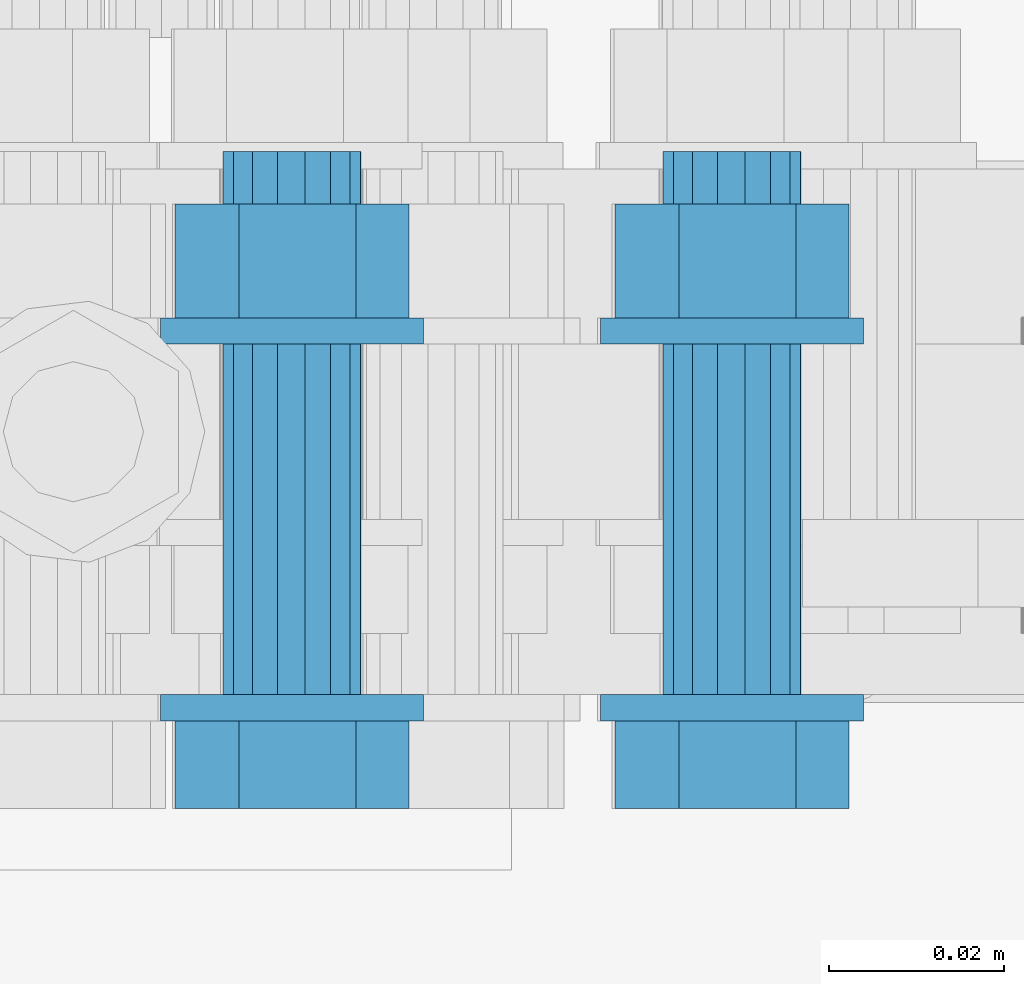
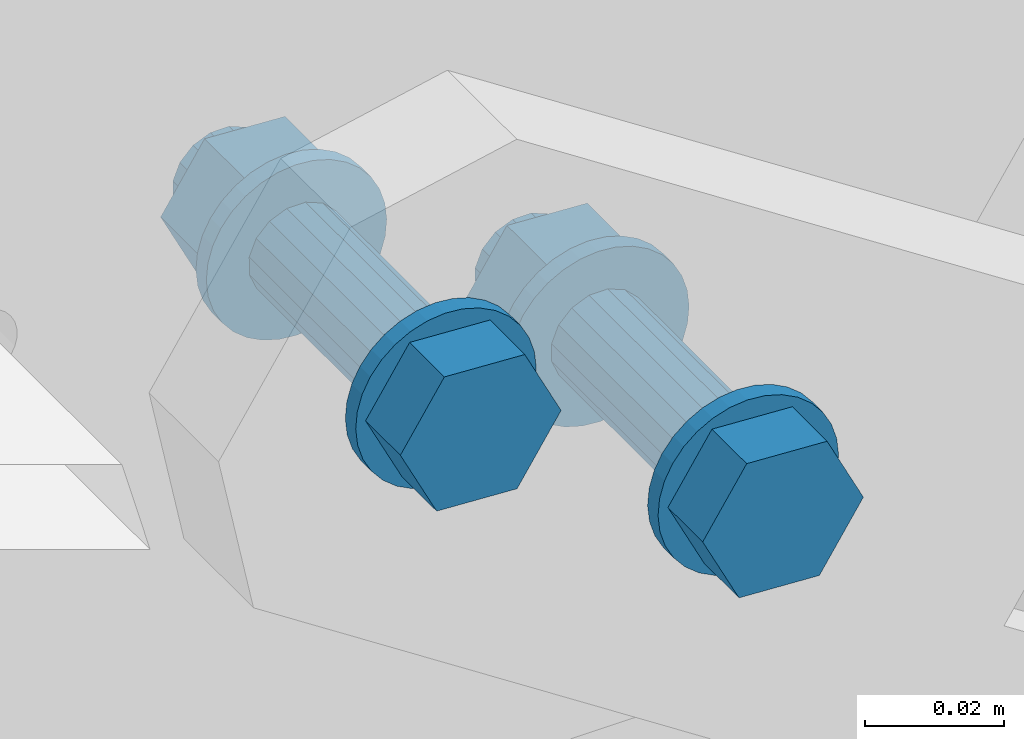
# One storey, part 364 of 825: 1 mechanical fastener.
"""IFC2X3 building model written with IfcOpenShell, lengths in millimetres."""

from ifc_helpers import new_model, entity, si_unit, converted_unit, origin_with_axes, place, context, project, spatial, faceted_brep, element, save


model = new_model("IFC2X3")

# Units and contexts
model_context = context("Model", 3, precision=1e-09, world=origin_with_axes())
ifc_project = project(units=[si_unit("LENGTHUNIT", "METRE", prefix="MILLI"), si_unit("AREAUNIT", "SQUARE_METRE"), si_unit("VOLUMEUNIT", "CUBIC_METRE"), converted_unit("PLANEANGLEUNIT", "DEGREE", entity("IfcPlaneAngleMeasure", 0.01745329), si_unit("PLANEANGLEUNIT", "RADIAN"), dimensions=[0, 0, 0, 0, 0, 0, 0])], contexts=[model_context])

# Site, building, storey
site_placement = place(None, origin_with_axes())
site = spatial("IfcSite", under=ifc_project, at=site_placement, Name="Cnopf'sche Kinderklinik", CompositionType="ELEMENT")
building_placement = place(site_placement, origin_with_axes())
building = spatial("IfcBuilding", under=site, at=building_placement, Name="Struktur 1", CompositionType="ELEMENT")
storey_placement = place(building_placement, origin_with_axes())
storey = spatial("IfcBuildingStorey", under=building, at=storey_placement, Name="Default Storey", CompositionType="ELEMENT", Elevation=0.0)

# Mechanical fastener
mechanical_fastener_placement = place(None, origin_with_axes())
element("IfcMechanicalFastener", 1, at=mechanical_fastener_placement, inside=storey, ObjectType="-", NominalDiameter=16.0, NominalLength=65.0, context=model_context, shape_type="Brep", body=[
    faceted_brep([(5059.336194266, 7486.736971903, 17366.613035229), (5059.336194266, 7483.736971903, 17366.613035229), (5061.178102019, 7483.736971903, 17368.905195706), (5061.178102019, 7486.736971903, 17368.905195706), (5063.431796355, 7483.736971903, 17370.793974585), (5063.431796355, 7486.736971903, 17370.793974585), (5066.010669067, 7483.736971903, 17372.206787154), (5066.010669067, 7486.736971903, 17372.206787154), (5068.815615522, 7483.736971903, 17373.089339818), (5068.815615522, 7486.736971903, 17373.089339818), (5071.7388432, 7483.736971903, 17373.407716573), (5071.7388432, 7486.736971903, 17373.407716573), (5074.668014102, 7483.736971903, 17373.149682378), (5074.668014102, 7486.736971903, 17373.149682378), (5077.490561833, 7483.736971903, 17372.325153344), (5077.490561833, 7486.736971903, 17372.325153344), (5080.098017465, 7483.736971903, 17370.965815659), (5080.098017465, 7486.736971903, 17370.965815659), (5082.390177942, 7483.736971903, 17369.123907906), (5082.390177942, 7486.736971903, 17369.123907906), (5084.278956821, 7483.736971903, 17366.87021357), (5084.278956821, 7486.736971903, 17366.87021357), (5085.69176939, 7483.736971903, 17364.291340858), (5085.69176939, 7486.736971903, 17364.291340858), (5086.574322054, 7483.736971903, 17361.486394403), (5086.574322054, 7486.736971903, 17361.486394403), (5086.892698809, 7483.736971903, 17358.563166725), (5086.892698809, 7486.736971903, 17358.563166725), (5086.634664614, 7483.736971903, 17355.633995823), (5086.634664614, 7486.736971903, 17355.633995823), (5085.81013558, 7483.736971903, 17352.811448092), (5085.81013558, 7486.736971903, 17352.811448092), (5084.450797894, 7483.736971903, 17350.20399246), (5084.450797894, 7486.736971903, 17350.20399246), (5082.608890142, 7483.736971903, 17347.911831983), (5082.608890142, 7486.736971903, 17347.911831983), (5080.355195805, 7483.736971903, 17346.023053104), (5080.355195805, 7486.736971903, 17346.023053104), (5077.776323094, 7483.736971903, 17344.610240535), (5077.776323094, 7486.736971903, 17344.610240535), (5074.971376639, 7483.736971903, 17343.727687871), (5074.971376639, 7486.736971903, 17343.727687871), (5072.04814896, 7483.736971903, 17343.409311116), (5072.04814896, 7486.736971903, 17343.409311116), (5069.118978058, 7483.736971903, 17343.667345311), (5069.118978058, 7486.736971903, 17343.667345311), (5066.296430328, 7483.736971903, 17344.491874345), (5066.296430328, 7486.736971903, 17344.491874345), (5063.688974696, 7483.736971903, 17345.851212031), (5063.688974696, 7486.736971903, 17345.851212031), (5061.396814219, 7483.736971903, 17347.693119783), (5061.396814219, 7486.736971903, 17347.693119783), (5059.50803534, 7483.736971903, 17349.946814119), (5059.50803534, 7486.736971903, 17349.946814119), (5058.095222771, 7483.736971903, 17352.525686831), (5058.095222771, 7486.736971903, 17352.525686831), (5057.212670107, 7483.736971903, 17355.330633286), (5057.212670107, 7486.736971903, 17355.330633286), (5056.894293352, 7483.736971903, 17358.253860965), (5056.894293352, 7486.736971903, 17358.253860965), (5057.152327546, 7483.736971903, 17361.183031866), (5057.152327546, 7486.736971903, 17361.183031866), (5057.976856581, 7483.736971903, 17364.005579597), (5057.976856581, 7486.736971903, 17364.005579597)], [[[0, 1, 2, 3]], [[3, 2, 4, 5]], [[5, 4, 6, 7]], [[7, 6, 8, 9]], [[9, 8, 10, 11]], [[11, 10, 12, 13]], [[13, 12, 14, 15]], [[15, 14, 16, 17]], [[17, 16, 18, 19]], [[19, 18, 20, 21]], [[21, 20, 22, 23]], [[23, 22, 24, 25]], [[25, 24, 26, 27]], [[27, 26, 28, 29]], [[29, 28, 30, 31]], [[31, 30, 32, 33]], [[33, 32, 34, 35]], [[35, 34, 36, 37]], [[37, 36, 38, 39]], [[39, 38, 40, 41]], [[41, 40, 42, 43]], [[43, 42, 44, 45]], [[45, 44, 46, 47]], [[47, 46, 48, 49]], [[49, 48, 50, 51]], [[51, 50, 52, 53]], [[53, 52, 54, 55]], [[55, 54, 56, 57]], [[57, 56, 58, 59]], [[59, 58, 60, 61]], [[61, 60, 62, 63]], [[63, 62, 1, 0]], [[2, 1, 62, 60, 58, 56, 54, 52, 50, 48, 46, 44, 42, 40, 38, 36, 34, 32, 30, 28, 26, 24, 22, 20, 18, 16, 14, 12, 10, 8, 6, 4]], [[63, 0, 3, 5, 7, 9, 11, 13, 15, 17, 19, 21, 23, 25, 27, 29, 31, 33, 35, 37, 39, 41, 43, 45, 47, 49, 51, 53, 55, 57, 59, 61]]]),
    faceted_brep([(5009.10698701, 7486.736971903, 17399.431120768), (5009.10698701, 7483.736971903, 17399.431120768), (5010.948894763, 7483.736971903, 17401.723281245), (5010.948894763, 7486.736971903, 17401.723281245), (5013.202589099, 7483.736971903, 17403.612060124), (5013.202589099, 7486.736971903, 17403.612060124), (5015.781461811, 7483.736971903, 17405.024872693), (5015.781461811, 7486.736971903, 17405.024872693), (5018.586408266, 7483.736971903, 17405.907425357), (5018.586408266, 7486.736971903, 17405.907425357), (5021.509635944, 7483.736971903, 17406.225802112), (5021.509635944, 7486.736971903, 17406.225802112), (5024.438806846, 7483.736971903, 17405.967767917), (5024.438806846, 7486.736971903, 17405.967767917), (5027.261354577, 7483.736971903, 17405.143238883), (5027.261354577, 7486.736971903, 17405.143238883), (5029.868810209, 7483.736971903, 17403.783901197), (5029.868810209, 7486.736971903, 17403.783901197), (5032.160970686, 7483.736971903, 17401.941993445), (5032.160970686, 7486.736971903, 17401.941993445), (5034.049749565, 7483.736971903, 17399.688299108), (5034.049749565, 7486.736971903, 17399.688299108), (5035.462562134, 7483.736971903, 17397.109426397), (5035.462562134, 7486.736971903, 17397.109426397), (5036.345114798, 7483.736971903, 17394.304479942), (5036.345114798, 7486.736971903, 17394.304479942), (5036.663491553, 7483.736971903, 17391.381252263), (5036.663491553, 7486.736971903, 17391.381252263), (5036.405457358, 7483.736971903, 17388.452081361), (5036.405457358, 7486.736971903, 17388.452081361), (5035.580928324, 7483.736971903, 17385.629533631), (5035.580928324, 7486.736971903, 17385.629533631), (5034.221590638, 7483.736971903, 17383.022077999), (5034.221590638, 7486.736971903, 17383.022077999), (5032.379682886, 7483.736971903, 17380.729917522), (5032.379682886, 7486.736971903, 17380.729917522), (5030.125988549, 7483.736971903, 17378.841138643), (5030.125988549, 7486.736971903, 17378.841138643), (5027.547115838, 7483.736971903, 17377.428326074), (5027.547115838, 7486.736971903, 17377.428326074), (5024.742169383, 7483.736971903, 17376.54577341), (5024.742169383, 7486.736971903, 17376.54577341), (5021.818941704, 7483.736971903, 17376.227396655), (5021.818941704, 7486.736971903, 17376.227396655), (5018.889770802, 7483.736971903, 17376.485430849), (5018.889770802, 7486.736971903, 17376.485430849), (5016.067223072, 7483.736971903, 17377.309959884), (5016.067223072, 7486.736971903, 17377.309959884), (5013.45976744, 7483.736971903, 17378.669297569), (5013.45976744, 7486.736971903, 17378.669297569), (5011.167606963, 7483.736971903, 17380.511205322), (5011.167606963, 7486.736971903, 17380.511205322), (5009.278828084, 7483.736971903, 17382.764899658), (5009.278828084, 7486.736971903, 17382.764899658), (5007.866015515, 7483.736971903, 17385.34377237), (5007.866015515, 7486.736971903, 17385.34377237), (5006.983462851, 7483.736971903, 17388.148718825), (5006.983462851, 7486.736971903, 17388.148718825), (5006.665086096, 7483.736971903, 17391.071946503), (5006.665086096, 7486.736971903, 17391.071946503), (5006.92312029, 7483.736971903, 17394.001117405), (5006.92312029, 7486.736971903, 17394.001117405), (5007.747649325, 7483.736971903, 17396.823665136), (5007.747649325, 7486.736971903, 17396.823665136)], [[[0, 1, 2, 3]], [[3, 2, 4, 5]], [[5, 4, 6, 7]], [[7, 6, 8, 9]], [[9, 8, 10, 11]], [[11, 10, 12, 13]], [[13, 12, 14, 15]], [[15, 14, 16, 17]], [[17, 16, 18, 19]], [[19, 18, 20, 21]], [[21, 20, 22, 23]], [[23, 22, 24, 25]], [[25, 24, 26, 27]], [[27, 26, 28, 29]], [[29, 28, 30, 31]], [[31, 30, 32, 33]], [[33, 32, 34, 35]], [[35, 34, 36, 37]], [[37, 36, 38, 39]], [[39, 38, 40, 41]], [[41, 40, 42, 43]], [[43, 42, 44, 45]], [[45, 44, 46, 47]], [[47, 46, 48, 49]], [[49, 48, 50, 51]], [[51, 50, 52, 53]], [[53, 52, 54, 55]], [[55, 54, 56, 57]], [[57, 56, 58, 59]], [[59, 58, 60, 61]], [[61, 60, 62, 63]], [[63, 62, 1, 0]], [[2, 1, 62, 60, 58, 56, 54, 52, 50, 48, 46, 44, 42, 40, 38, 36, 34, 32, 30, 28, 26, 24, 22, 20, 18, 16, 14, 12, 10, 8, 6, 4]], [[63, 0, 3, 5, 7, 9, 11, 13, 15, 17, 19, 21, 23, 25, 27, 29, 31, 33, 35, 37, 39, 41, 43, 45, 47, 49, 51, 53, 55, 57, 59, 61]]]),
    faceted_brep([(5085.248168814, 7473.736971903, 17357.671397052), (5085.248168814, 7483.736971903, 17357.671397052), (5079.209194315, 7483.736971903, 17369.605441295), (5079.209194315, 7473.736971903, 17369.605441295), (5065.854521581, 7483.736971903, 17370.342558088), (5065.854521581, 7473.736971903, 17370.342558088), (5058.538823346, 7483.736971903, 17359.145630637), (5058.538823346, 7473.736971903, 17359.145630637), (5064.577797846, 7483.736971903, 17347.211586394), (5064.577797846, 7473.736971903, 17347.211586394), (5077.93247058, 7483.736971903, 17346.474469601), (5077.93247058, 7473.736971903, 17346.474469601)], [[[0, 1, 2, 3]], [[3, 2, 4, 5]], [[5, 4, 6, 7]], [[7, 6, 8, 9]], [[9, 8, 10, 11]], [[11, 10, 1, 0]], [[3, 5, 7, 9, 11, 0]], [[2, 1, 10, 8, 6, 4]]]),
    faceted_brep([(5035.018961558, 7473.736971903, 17390.489482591), (5035.018961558, 7483.736971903, 17390.489482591), (5028.979987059, 7483.736971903, 17402.423526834), (5028.979987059, 7473.736971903, 17402.423526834), (5015.625314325, 7483.736971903, 17403.160643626), (5015.625314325, 7473.736971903, 17403.160643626), (5008.30961609, 7483.736971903, 17391.963716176), (5008.30961609, 7473.736971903, 17391.963716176), (5014.34859059, 7483.736971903, 17380.029671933), (5014.34859059, 7473.736971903, 17380.029671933), (5027.703263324, 7483.736971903, 17379.29255514), (5027.703263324, 7473.736971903, 17379.29255514)], [[[0, 1, 2, 3]], [[3, 2, 4, 5]], [[5, 4, 6, 7]], [[7, 6, 8, 9]], [[9, 8, 10, 11]], [[11, 10, 1, 0]], [[3, 5, 7, 9, 11, 0]], [[2, 1, 10, 8, 6, 4]]]),
    faceted_brep([(5065.196268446, 7526.736971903, 17362.784258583), (5065.196268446, 7486.736971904, 17362.784258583), (5067.38058956, 7486.736971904, 17365.014092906), (5067.38058956, 7526.736971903, 17365.014092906), (5070.251959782, 7486.736971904, 17366.238287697), (5070.251959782, 7526.736971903, 17366.238287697), (5073.373239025, 7486.736971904, 17366.270470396), (5073.373239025, 7526.736971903, 17366.270470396), (5076.269240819, 7486.736971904, 17365.105741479), (5076.269240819, 7526.736971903, 17365.105741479), (5078.499075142, 7486.736971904, 17362.921420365), (5078.499075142, 7526.736971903, 17362.921420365), (5079.723269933, 7486.736971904, 17360.050050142), (5079.723269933, 7526.736971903, 17360.050050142), (5079.755452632, 7486.736971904, 17356.928770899), (5079.755452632, 7526.736971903, 17356.928770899), (5078.590723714, 7486.736971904, 17354.032769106), (5078.590723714, 7526.736971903, 17354.032769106), (5076.4064026, 7486.736971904, 17351.802934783), (5076.4064026, 7526.736971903, 17351.802934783), (5073.535032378, 7486.736971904, 17350.578739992), (5073.535032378, 7526.736971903, 17350.578739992), (5070.413753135, 7486.736971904, 17350.546557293), (5070.413753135, 7526.736971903, 17350.546557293), (5067.517751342, 7486.736971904, 17351.71128621), (5067.517751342, 7526.736971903, 17351.71128621), (5065.287917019, 7486.736971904, 17353.895607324), (5065.287917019, 7526.736971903, 17353.895607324), (5064.063722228, 7486.736971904, 17356.766977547), (5064.063722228, 7526.736971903, 17356.766977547), (5064.031539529, 7486.736971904, 17359.88825679), (5064.031539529, 7526.736971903, 17359.88825679)], [[[0, 1, 2, 3]], [[3, 2, 4, 5]], [[5, 4, 6, 7]], [[7, 6, 8, 9]], [[9, 8, 10, 11]], [[11, 10, 12, 13]], [[13, 12, 14, 15]], [[15, 14, 16, 17]], [[17, 16, 18, 19]], [[19, 18, 20, 21]], [[21, 20, 22, 23]], [[23, 22, 24, 25]], [[25, 24, 26, 27]], [[27, 26, 28, 29]], [[29, 28, 30, 31]], [[31, 30, 1, 0]], [[2, 1, 30, 28, 26, 24, 22, 20, 18, 16, 14, 12, 10, 8, 6, 4]], [[31, 0, 3, 5, 7, 9, 11, 13, 15, 17, 19, 21, 23, 25, 27, 29]]]),
    faceted_brep([(5014.96706119, 7526.736971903, 17395.602344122), (5014.96706119, 7486.736971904, 17395.602344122), (5017.151382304, 7486.736971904, 17397.832178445), (5017.151382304, 7526.736971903, 17397.832178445), (5020.022752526, 7486.736971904, 17399.056373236), (5020.022752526, 7526.736971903, 17399.056373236), (5023.144031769, 7486.736971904, 17399.088555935), (5023.144031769, 7526.736971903, 17399.088555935), (5026.040033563, 7486.736971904, 17397.923827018), (5026.040033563, 7526.736971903, 17397.923827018), (5028.269867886, 7486.736971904, 17395.739505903), (5028.269867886, 7526.736971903, 17395.739505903), (5029.494062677, 7486.736971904, 17392.868135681), (5029.494062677, 7526.736971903, 17392.868135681), (5029.526245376, 7486.736971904, 17389.746856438), (5029.526245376, 7526.736971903, 17389.746856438), (5028.361516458, 7486.736971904, 17386.850854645), (5028.361516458, 7526.736971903, 17386.850854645), (5026.177195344, 7486.736971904, 17384.621020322), (5026.177195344, 7526.736971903, 17384.621020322), (5023.305825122, 7486.736971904, 17383.396825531), (5023.305825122, 7526.736971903, 17383.396825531), (5020.184545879, 7486.736971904, 17383.364642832), (5020.184545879, 7526.736971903, 17383.364642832), (5017.288544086, 7486.736971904, 17384.529371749), (5017.288544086, 7526.736971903, 17384.529371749), (5015.058709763, 7486.736971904, 17386.713692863), (5015.058709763, 7526.736971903, 17386.713692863), (5013.834514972, 7486.736971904, 17389.585063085), (5013.834514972, 7526.736971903, 17389.585063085), (5013.802332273, 7486.736971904, 17392.706342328), (5013.802332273, 7526.736971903, 17392.706342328)], [[[0, 1, 2, 3]], [[3, 2, 4, 5]], [[5, 4, 6, 7]], [[7, 6, 8, 9]], [[9, 8, 10, 11]], [[11, 10, 12, 13]], [[13, 12, 14, 15]], [[15, 14, 16, 17]], [[17, 16, 18, 19]], [[19, 18, 20, 21]], [[21, 20, 22, 23]], [[23, 22, 24, 25]], [[25, 24, 26, 27]], [[27, 26, 28, 29]], [[29, 28, 30, 31]], [[31, 30, 1, 0]], [[2, 1, 30, 28, 26, 24, 22, 20, 18, 16, 14, 12, 10, 8, 6, 4]], [[31, 0, 3, 5, 7, 9, 11, 13, 15, 17, 19, 21, 23, 25, 27, 29]]]),
    faceted_brep([(5059.336194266, 7529.736971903, 17366.613035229), (5059.336194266, 7526.736971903, 17366.613035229), (5061.178102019, 7526.736971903, 17368.905195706), (5061.178102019, 7529.736971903, 17368.905195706), (5063.431796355, 7526.736971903, 17370.793974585), (5063.431796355, 7529.736971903, 17370.793974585), (5066.010669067, 7526.736971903, 17372.206787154), (5066.010669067, 7529.736971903, 17372.206787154), (5068.815615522, 7526.736971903, 17373.089339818), (5068.815615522, 7529.736971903, 17373.089339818), (5071.7388432, 7526.736971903, 17373.407716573), (5071.7388432, 7529.736971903, 17373.407716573), (5074.668014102, 7526.736971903, 17373.149682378), (5074.668014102, 7529.736971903, 17373.149682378), (5077.490561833, 7526.736971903, 17372.325153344), (5077.490561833, 7529.736971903, 17372.325153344), (5080.098017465, 7526.736971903, 17370.965815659), (5080.098017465, 7529.736971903, 17370.965815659), (5082.390177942, 7526.736971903, 17369.123907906), (5082.390177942, 7529.736971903, 17369.123907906), (5084.278956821, 7526.736971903, 17366.87021357), (5084.278956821, 7529.736971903, 17366.87021357), (5085.69176939, 7526.736971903, 17364.291340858), (5085.69176939, 7529.736971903, 17364.291340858), (5086.574322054, 7526.736971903, 17361.486394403), (5086.574322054, 7529.736971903, 17361.486394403), (5086.892698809, 7526.736971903, 17358.563166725), (5086.892698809, 7529.736971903, 17358.563166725), (5086.634664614, 7526.736971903, 17355.633995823), (5086.634664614, 7529.736971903, 17355.633995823), (5085.81013558, 7526.736971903, 17352.811448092), (5085.81013558, 7529.736971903, 17352.811448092), (5084.450797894, 7526.736971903, 17350.20399246), (5084.450797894, 7529.736971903, 17350.20399246), (5082.608890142, 7526.736971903, 17347.911831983), (5082.608890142, 7529.736971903, 17347.911831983), (5080.355195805, 7526.736971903, 17346.023053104), (5080.355195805, 7529.736971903, 17346.023053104), (5077.776323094, 7526.736971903, 17344.610240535), (5077.776323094, 7529.736971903, 17344.610240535), (5074.971376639, 7526.736971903, 17343.727687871), (5074.971376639, 7529.736971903, 17343.727687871), (5072.04814896, 7526.736971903, 17343.409311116), (5072.04814896, 7529.736971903, 17343.409311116), (5069.118978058, 7526.736971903, 17343.667345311), (5069.118978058, 7529.736971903, 17343.667345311), (5066.296430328, 7526.736971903, 17344.491874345), (5066.296430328, 7529.736971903, 17344.491874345), (5063.688974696, 7526.736971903, 17345.851212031), (5063.688974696, 7529.736971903, 17345.851212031), (5061.396814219, 7526.736971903, 17347.693119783), (5061.396814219, 7529.736971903, 17347.693119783), (5059.50803534, 7526.736971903, 17349.946814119), (5059.50803534, 7529.736971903, 17349.946814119), (5058.095222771, 7526.736971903, 17352.525686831), (5058.095222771, 7529.736971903, 17352.525686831), (5057.212670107, 7526.736971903, 17355.330633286), (5057.212670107, 7529.736971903, 17355.330633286), (5056.894293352, 7526.736971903, 17358.253860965), (5056.894293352, 7529.736971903, 17358.253860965), (5057.152327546, 7526.736971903, 17361.183031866), (5057.152327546, 7529.736971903, 17361.183031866), (5057.976856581, 7526.736971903, 17364.005579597), (5057.976856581, 7529.736971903, 17364.005579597)], [[[0, 1, 2, 3]], [[3, 2, 4, 5]], [[5, 4, 6, 7]], [[7, 6, 8, 9]], [[9, 8, 10, 11]], [[11, 10, 12, 13]], [[13, 12, 14, 15]], [[15, 14, 16, 17]], [[17, 16, 18, 19]], [[19, 18, 20, 21]], [[21, 20, 22, 23]], [[23, 22, 24, 25]], [[25, 24, 26, 27]], [[27, 26, 28, 29]], [[29, 28, 30, 31]], [[31, 30, 32, 33]], [[33, 32, 34, 35]], [[35, 34, 36, 37]], [[37, 36, 38, 39]], [[39, 38, 40, 41]], [[41, 40, 42, 43]], [[43, 42, 44, 45]], [[45, 44, 46, 47]], [[47, 46, 48, 49]], [[49, 48, 50, 51]], [[51, 50, 52, 53]], [[53, 52, 54, 55]], [[55, 54, 56, 57]], [[57, 56, 58, 59]], [[59, 58, 60, 61]], [[61, 60, 62, 63]], [[63, 62, 1, 0]], [[2, 1, 62, 60, 58, 56, 54, 52, 50, 48, 46, 44, 42, 40, 38, 36, 34, 32, 30, 28, 26, 24, 22, 20, 18, 16, 14, 12, 10, 8, 6, 4]], [[63, 0, 3, 5, 7, 9, 11, 13, 15, 17, 19, 21, 23, 25, 27, 29, 31, 33, 35, 37, 39, 41, 43, 45, 47, 49, 51, 53, 55, 57, 59, 61]]]),
    faceted_brep([(5009.10698701, 7529.736971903, 17399.431120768), (5009.10698701, 7526.736971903, 17399.431120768), (5010.948894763, 7526.736971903, 17401.723281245), (5010.948894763, 7529.736971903, 17401.723281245), (5013.202589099, 7526.736971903, 17403.612060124), (5013.202589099, 7529.736971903, 17403.612060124), (5015.781461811, 7526.736971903, 17405.024872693), (5015.781461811, 7529.736971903, 17405.024872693), (5018.586408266, 7526.736971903, 17405.907425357), (5018.586408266, 7529.736971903, 17405.907425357), (5021.509635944, 7526.736971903, 17406.225802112), (5021.509635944, 7529.736971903, 17406.225802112), (5024.438806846, 7526.736971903, 17405.967767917), (5024.438806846, 7529.736971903, 17405.967767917), (5027.261354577, 7526.736971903, 17405.143238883), (5027.261354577, 7529.736971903, 17405.143238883), (5029.868810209, 7526.736971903, 17403.783901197), (5029.868810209, 7529.736971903, 17403.783901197), (5032.160970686, 7526.736971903, 17401.941993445), (5032.160970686, 7529.736971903, 17401.941993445), (5034.049749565, 7526.736971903, 17399.688299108), (5034.049749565, 7529.736971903, 17399.688299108), (5035.462562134, 7526.736971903, 17397.109426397), (5035.462562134, 7529.736971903, 17397.109426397), (5036.345114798, 7526.736971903, 17394.304479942), (5036.345114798, 7529.736971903, 17394.304479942), (5036.663491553, 7526.736971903, 17391.381252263), (5036.663491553, 7529.736971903, 17391.381252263), (5036.405457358, 7526.736971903, 17388.452081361), (5036.405457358, 7529.736971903, 17388.452081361), (5035.580928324, 7526.736971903, 17385.629533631), (5035.580928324, 7529.736971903, 17385.629533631), (5034.221590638, 7526.736971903, 17383.022077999), (5034.221590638, 7529.736971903, 17383.022077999), (5032.379682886, 7526.736971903, 17380.729917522), (5032.379682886, 7529.736971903, 17380.729917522), (5030.125988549, 7526.736971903, 17378.841138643), (5030.125988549, 7529.736971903, 17378.841138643), (5027.547115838, 7526.736971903, 17377.428326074), (5027.547115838, 7529.736971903, 17377.428326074), (5024.742169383, 7526.736971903, 17376.54577341), (5024.742169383, 7529.736971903, 17376.54577341), (5021.818941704, 7526.736971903, 17376.227396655), (5021.818941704, 7529.736971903, 17376.227396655), (5018.889770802, 7526.736971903, 17376.485430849), (5018.889770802, 7529.736971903, 17376.485430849), (5016.067223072, 7526.736971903, 17377.309959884), (5016.067223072, 7529.736971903, 17377.309959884), (5013.45976744, 7526.736971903, 17378.669297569), (5013.45976744, 7529.736971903, 17378.669297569), (5011.167606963, 7526.736971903, 17380.511205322), (5011.167606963, 7529.736971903, 17380.511205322), (5009.278828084, 7526.736971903, 17382.764899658), (5009.278828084, 7529.736971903, 17382.764899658), (5007.866015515, 7526.736971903, 17385.34377237), (5007.866015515, 7529.736971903, 17385.34377237), (5006.983462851, 7526.736971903, 17388.148718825), (5006.983462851, 7529.736971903, 17388.148718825), (5006.665086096, 7526.736971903, 17391.071946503), (5006.665086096, 7529.736971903, 17391.071946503), (5006.92312029, 7526.736971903, 17394.001117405), (5006.92312029, 7529.736971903, 17394.001117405), (5007.747649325, 7526.736971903, 17396.823665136), (5007.747649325, 7529.736971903, 17396.823665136)], [[[0, 1, 2, 3]], [[3, 2, 4, 5]], [[5, 4, 6, 7]], [[7, 6, 8, 9]], [[9, 8, 10, 11]], [[11, 10, 12, 13]], [[13, 12, 14, 15]], [[15, 14, 16, 17]], [[17, 16, 18, 19]], [[19, 18, 20, 21]], [[21, 20, 22, 23]], [[23, 22, 24, 25]], [[25, 24, 26, 27]], [[27, 26, 28, 29]], [[29, 28, 30, 31]], [[31, 30, 32, 33]], [[33, 32, 34, 35]], [[35, 34, 36, 37]], [[37, 36, 38, 39]], [[39, 38, 40, 41]], [[41, 40, 42, 43]], [[43, 42, 44, 45]], [[45, 44, 46, 47]], [[47, 46, 48, 49]], [[49, 48, 50, 51]], [[51, 50, 52, 53]], [[53, 52, 54, 55]], [[55, 54, 56, 57]], [[57, 56, 58, 59]], [[59, 58, 60, 61]], [[61, 60, 62, 63]], [[63, 62, 1, 0]], [[2, 1, 62, 60, 58, 56, 54, 52, 50, 48, 46, 44, 42, 40, 38, 36, 34, 32, 30, 28, 26, 24, 22, 20, 18, 16, 14, 12, 10, 8, 6, 4]], [[63, 0, 3, 5, 7, 9, 11, 13, 15, 17, 19, 21, 23, 25, 27, 29, 31, 33, 35, 37, 39, 41, 43, 45, 47, 49, 51, 53, 55, 57, 59, 61]]]),
    faceted_brep([(5085.248168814, 7529.736971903, 17357.671397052), (5085.248168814, 7542.736971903, 17357.671397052), (5079.209194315, 7542.736971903, 17369.605441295), (5079.209194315, 7529.736971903, 17369.605441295), (5065.854521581, 7542.736971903, 17370.342558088), (5065.854521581, 7529.736971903, 17370.342558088), (5058.538823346, 7542.736971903, 17359.145630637), (5058.538823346, 7529.736971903, 17359.145630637), (5064.577797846, 7542.736971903, 17347.211586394), (5064.577797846, 7529.736971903, 17347.211586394), (5077.93247058, 7542.736971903, 17346.474469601), (5077.93247058, 7529.736971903, 17346.474469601)], [[[0, 1, 2, 3]], [[3, 2, 4, 5]], [[5, 4, 6, 7]], [[7, 6, 8, 9]], [[9, 8, 10, 11]], [[11, 10, 1, 0]], [[3, 5, 7, 9, 11, 0]], [[2, 1, 10, 8, 6, 4]]]),
    faceted_brep([(5035.018961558, 7529.736971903, 17390.489482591), (5035.018961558, 7542.736971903, 17390.489482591), (5028.979987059, 7542.736971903, 17402.423526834), (5028.979987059, 7529.736971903, 17402.423526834), (5015.625314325, 7542.736971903, 17403.160643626), (5015.625314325, 7529.736971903, 17403.160643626), (5008.30961609, 7542.736971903, 17391.963716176), (5008.30961609, 7529.736971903, 17391.963716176), (5014.34859059, 7542.736971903, 17380.029671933), (5014.34859059, 7529.736971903, 17380.029671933), (5027.703263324, 7542.736971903, 17379.29255514), (5027.703263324, 7529.736971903, 17379.29255514)], [[[0, 1, 2, 3]], [[3, 2, 4, 5]], [[5, 4, 6, 7]], [[7, 6, 8, 9]], [[9, 8, 10, 11]], [[11, 10, 1, 0]], [[3, 5, 7, 9, 11, 0]], [[2, 1, 10, 8, 6, 4]]]),
    faceted_brep([(5065.196268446, 7548.736971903, 17362.784258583), (5065.196268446, 7542.736971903, 17362.784258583), (5067.38058956, 7542.736971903, 17365.014092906), (5067.38058956, 7548.736971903, 17365.014092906), (5070.251959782, 7542.736971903, 17366.238287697), (5070.251959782, 7548.736971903, 17366.238287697), (5073.373239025, 7542.736971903, 17366.270470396), (5073.373239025, 7548.736971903, 17366.270470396), (5076.269240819, 7542.736971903, 17365.105741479), (5076.269240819, 7548.736971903, 17365.105741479), (5078.499075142, 7542.736971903, 17362.921420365), (5078.499075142, 7548.736971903, 17362.921420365), (5079.723269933, 7542.736971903, 17360.050050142), (5079.723269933, 7548.736971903, 17360.050050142), (5079.755452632, 7542.736971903, 17356.928770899), (5079.755452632, 7548.736971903, 17356.928770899), (5078.590723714, 7542.736971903, 17354.032769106), (5078.590723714, 7548.736971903, 17354.032769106), (5076.4064026, 7542.736971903, 17351.802934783), (5076.4064026, 7548.736971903, 17351.802934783), (5073.535032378, 7542.736971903, 17350.578739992), (5073.535032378, 7548.736971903, 17350.578739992), (5070.413753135, 7542.736971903, 17350.546557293), (5070.413753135, 7548.736971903, 17350.546557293), (5067.517751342, 7542.736971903, 17351.71128621), (5067.517751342, 7548.736971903, 17351.71128621), (5065.287917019, 7542.736971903, 17353.895607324), (5065.287917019, 7548.736971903, 17353.895607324), (5064.063722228, 7542.736971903, 17356.766977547), (5064.063722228, 7548.736971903, 17356.766977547), (5064.031539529, 7542.736971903, 17359.88825679), (5064.031539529, 7548.736971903, 17359.88825679)], [[[0, 1, 2, 3]], [[3, 2, 4, 5]], [[5, 4, 6, 7]], [[7, 6, 8, 9]], [[9, 8, 10, 11]], [[11, 10, 12, 13]], [[13, 12, 14, 15]], [[15, 14, 16, 17]], [[17, 16, 18, 19]], [[19, 18, 20, 21]], [[21, 20, 22, 23]], [[23, 22, 24, 25]], [[25, 24, 26, 27]], [[27, 26, 28, 29]], [[29, 28, 30, 31]], [[31, 30, 1, 0]], [[2, 1, 30, 28, 26, 24, 22, 20, 18, 16, 14, 12, 10, 8, 6, 4]], [[31, 0, 3, 5, 7, 9, 11, 13, 15, 17, 19, 21, 23, 25, 27, 29]]]),
    faceted_brep([(5014.96706119, 7548.736971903, 17395.602344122), (5014.96706119, 7542.736971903, 17395.602344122), (5017.151382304, 7542.736971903, 17397.832178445), (5017.151382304, 7548.736971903, 17397.832178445), (5020.022752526, 7542.736971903, 17399.056373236), (5020.022752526, 7548.736971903, 17399.056373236), (5023.144031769, 7542.736971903, 17399.088555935), (5023.144031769, 7548.736971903, 17399.088555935), (5026.040033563, 7542.736971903, 17397.923827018), (5026.040033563, 7548.736971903, 17397.923827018), (5028.269867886, 7542.736971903, 17395.739505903), (5028.269867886, 7548.736971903, 17395.739505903), (5029.494062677, 7542.736971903, 17392.868135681), (5029.494062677, 7548.736971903, 17392.868135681), (5029.526245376, 7542.736971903, 17389.746856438), (5029.526245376, 7548.736971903, 17389.746856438), (5028.361516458, 7542.736971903, 17386.850854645), (5028.361516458, 7548.736971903, 17386.850854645), (5026.177195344, 7542.736971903, 17384.621020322), (5026.177195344, 7548.736971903, 17384.621020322), (5023.305825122, 7542.736971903, 17383.396825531), (5023.305825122, 7548.736971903, 17383.396825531), (5020.184545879, 7542.736971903, 17383.364642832), (5020.184545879, 7548.736971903, 17383.364642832), (5017.288544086, 7542.736971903, 17384.529371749), (5017.288544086, 7548.736971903, 17384.529371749), (5015.058709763, 7542.736971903, 17386.713692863), (5015.058709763, 7548.736971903, 17386.713692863), (5013.834514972, 7542.736971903, 17389.585063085), (5013.834514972, 7548.736971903, 17389.585063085), (5013.802332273, 7542.736971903, 17392.706342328), (5013.802332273, 7548.736971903, 17392.706342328)], [[[0, 1, 2, 3]], [[3, 2, 4, 5]], [[5, 4, 6, 7]], [[7, 6, 8, 9]], [[9, 8, 10, 11]], [[11, 10, 12, 13]], [[13, 12, 14, 15]], [[15, 14, 16, 17]], [[17, 16, 18, 19]], [[19, 18, 20, 21]], [[21, 20, 22, 23]], [[23, 22, 24, 25]], [[25, 24, 26, 27]], [[27, 26, 28, 29]], [[29, 28, 30, 31]], [[31, 30, 1, 0]], [[2, 1, 30, 28, 26, 24, 22, 20, 18, 16, 14, 12, 10, 8, 6, 4]], [[31, 0, 3, 5, 7, 9, 11, 13, 15, 17, 19, 21, 23, 25, 27, 29]]]),
])

save(model, "model.ifc")
